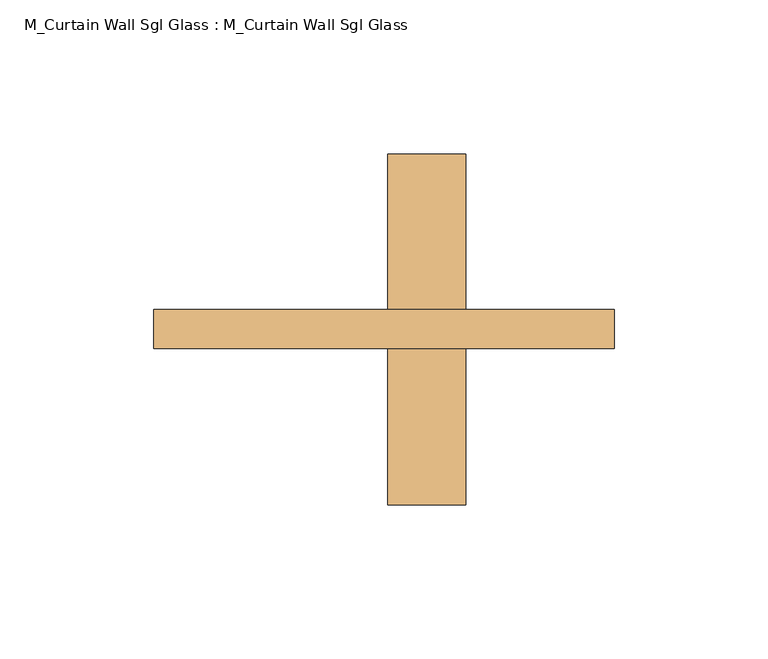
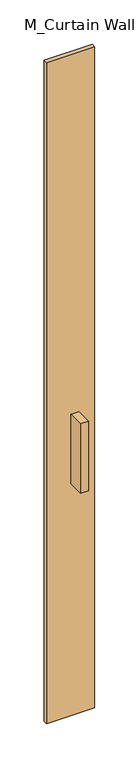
"""IFC4 building model written with IfcOpenShell, lengths in millimetres: door geometry, M_Curtain Wall Sgl Glass : M_Curtain Wall Sgl Glass."""

from ifc_helpers import new_model, si_unit, frame, origin, origin_with_axes, place, context, project, spatial, polyline, outline, extrude, source, transform, mapped, element, save


def m_curtain_wall_sgl_glass_m_curtain_wall_sgl_glass_aad50b51(model_context):
    return source(origin(), model_context, "Body", "SweptSolid", [
        extrude(outline(polyline([(26.6, -12.5), (1.2, -12.5), (1.2, 38.3), (26.6, 38.3), (26.6, -12.5)])), frame((0.0, 0.0, 762.0), z_axis=(0.0, 0.0, 1.0), x_axis=(1.0, 0.0, 0.0)), (0.0, 0.0, 1.0), 228.6),
        extrude(outline(polyline([(1.2, 101.8), (26.6, 101.8), (26.6, 51.0), (1.2, 51.0), (1.2, 101.8)])), frame((0.0, 0.0, 762.0), z_axis=(0.0, 0.0, 1.0), x_axis=(1.0, 0.0, 0.0)), (0.0, 0.0, 1.0), 228.6),
        extrude(outline(polyline([(75.0, 51.0), (75.0, 38.3), (-75.0, 38.3), (-75.0, 51.0), (75.0, 51.0)])), origin_with_axes(), (0.0, 0.0, 1.0), 2175.0),
    ])


if __name__ == "__main__":
    model = new_model("IFC4")
    model_context = context("Model", 3, world=origin())
    ifc_project = project(units=[si_unit("LENGTHUNIT", "METRE", prefix="MILLI")], contexts=[model_context])
    site = spatial("IfcSite", under=ifc_project)
    building = spatial("IfcBuilding", under=site)
    placement = place(None, origin())
    m_curtain_wall_sgl_glass_m_curtain_wall_sgl_glass_shape = m_curtain_wall_sgl_glass_m_curtain_wall_sgl_glass_aad50b51(model_context)
    element("IfcDoor", 1, ObjectType="M_Curtain Wall Sgl Glass : M_Curtain Wall Sgl Glass", at=placement, inside=building, context=model_context, shape_type="MappedRepresentation", body=[
        mapped(m_curtain_wall_sgl_glass_m_curtain_wall_sgl_glass_shape, transform((0.0, 0.0, 0.0), x_axis=(1.0, 0.0, 0.0), y_axis=(0.0, 1.0, 0.0), z_axis=(0.0, 0.0, 1.0))),
    ])
    save(model, "model.ifc")
